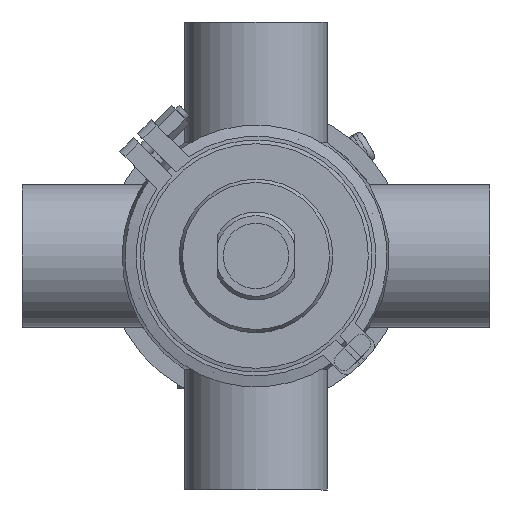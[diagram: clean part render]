
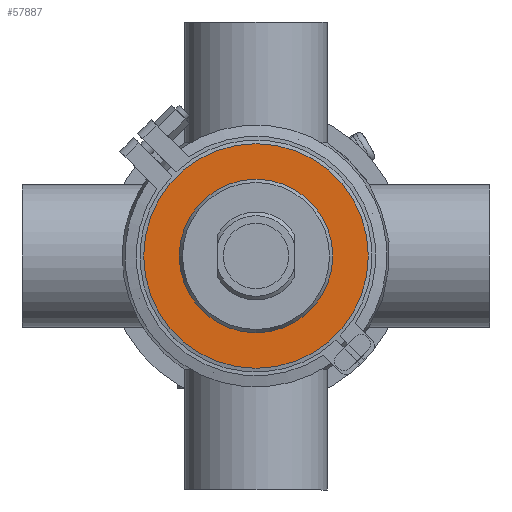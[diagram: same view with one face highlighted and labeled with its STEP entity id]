
A CAD part, front view. The second image highlights one B-rep face of the part: STEP entity #57887.
In plain terms, the highlighted planar face has unit normal (0, -1, 0).
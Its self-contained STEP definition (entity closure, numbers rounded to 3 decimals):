
#6431 = EDGE_LOOP ( 'NONE', ( #21064 ) ) ;
#10725 = FACE_BOUND ( 'NONE', #63513, .T. ) ;
#11051 = VERTEX_POINT ( 'NONE', #41244 ) ;
#12326 = DIRECTION ( 'NONE',  ( 0., 1., 0. ) ) ;
#13537 = EDGE_CURVE ( 'NONE', #11051, #11051, #14822, .T. ) ;
#14822 = CIRCLE ( 'NONE', #34353, 60. ) ;
#21064 = ORIENTED_EDGE ( 'NONE', *, *, #13537, .F. ) ;
#22148 = ORIENTED_EDGE ( 'NONE', *, *, #46642, .T. ) ;
#22727 = CARTESIAN_POINT ( 'NONE',  ( 0., -13., 0. ) ) ;
#24872 = FACE_OUTER_BOUND ( 'NONE', #6431, .T. ) ;
#25190 = PLANE ( 'NONE',  #40604 ) ;
#25800 = CIRCLE ( 'NONE', #40238, 41. ) ;
#27571 = CARTESIAN_POINT ( 'NONE',  ( 0., -13., 41. ) ) ;
#34353 = AXIS2_PLACEMENT_3D ( 'NONE', #22727, #57424, #47845 ) ;
#36119 = DIRECTION ( 'NONE',  ( 0., 0., 1. ) ) ;
#39985 = CARTESIAN_POINT ( 'NONE',  ( -60., -13., 0. ) ) ;
#40238 = AXIS2_PLACEMENT_3D ( 'NONE', #56038, #12326, #36119 ) ;
#40604 = AXIS2_PLACEMENT_3D ( 'NONE', #39985, #54443, #49953 ) ;
#41244 = CARTESIAN_POINT ( 'NONE',  ( 0., -13., 60. ) ) ;
#46642 = EDGE_CURVE ( 'NONE', #61995, #61995, #25800, .T. ) ;
#47845 = DIRECTION ( 'NONE',  ( 0., 0., 1. ) ) ;
#49953 = DIRECTION ( 'NONE',  ( 0., 0., -1. ) ) ;
#54443 = DIRECTION ( 'NONE',  ( 0., -1., 0. ) ) ;
#56038 = CARTESIAN_POINT ( 'NONE',  ( 0., -13., 0. ) ) ;
#57424 = DIRECTION ( 'NONE',  ( 0., 1., 0. ) ) ;
#57887 = ADVANCED_FACE ( 'NONE', ( #10725, #24872 ), #25190, .T. ) ;
#61995 = VERTEX_POINT ( 'NONE', #27571 ) ;
#63513 = EDGE_LOOP ( 'NONE', ( #22148 ) ) ;
